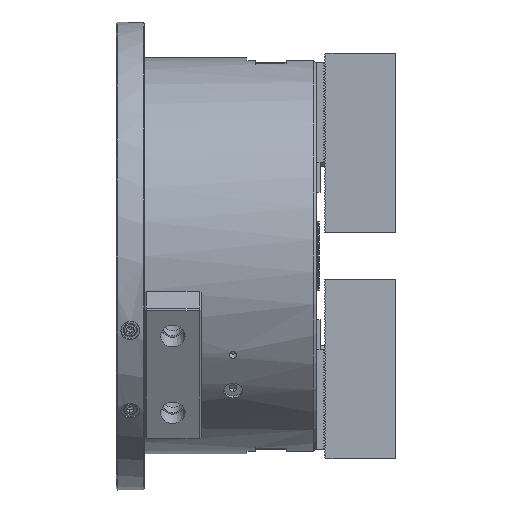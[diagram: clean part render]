
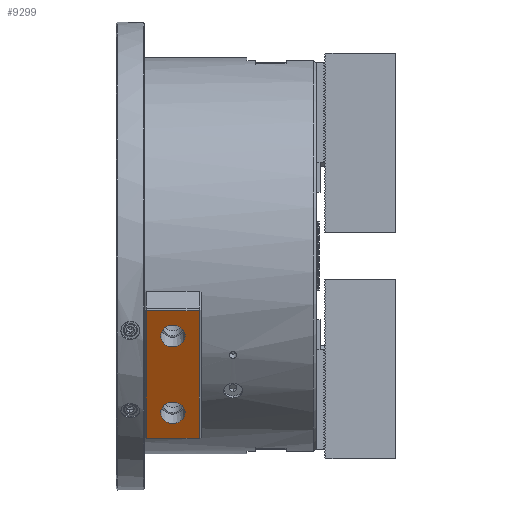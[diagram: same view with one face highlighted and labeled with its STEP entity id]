
A CAD part, front view. The second image highlights one B-rep face of the part: STEP entity #9299.
In plain terms, the highlighted planar face has unit normal (0, -0.866, -0.5).
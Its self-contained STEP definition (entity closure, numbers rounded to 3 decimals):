
#33 = ORIENTED_EDGE ( 'NONE', *, *, #34758, .T. ) ;
#1370 = VERTEX_POINT ( 'NONE', #50569 ) ;
#3205 = DIRECTION ( 'NONE',  ( 0., 0.5, -0.866 ) ) ;
#7455 = DIRECTION ( 'NONE',  ( 0., 0.866, 0.5 ) ) ;
#9299 = ADVANCED_FACE ( 'NONE', ( #11701, #69721, #12555 ), #52342, .T. ) ;
#9602 = EDGE_LOOP ( 'NONE', ( #22492 ) ) ;
#9884 = VECTOR ( 'NONE', #64900, 1000. ) ;
#11485 = VECTOR ( 'NONE', #60766, 1000. ) ;
#11701 = FACE_BOUND ( 'NONE', #9602, .T. ) ;
#12355 = AXIS2_PLACEMENT_3D ( 'NONE', #58385, #7455, #69651 ) ;
#12555 = FACE_BOUND ( 'NONE', #16937, .T. ) ;
#12608 = AXIS2_PLACEMENT_3D ( 'NONE', #46874, #49571, #62841 ) ;
#16937 = EDGE_LOOP ( 'NONE', ( #26444 ) ) ;
#19375 = VERTEX_POINT ( 'NONE', #48836 ) ;
#21330 = ORIENTED_EDGE ( 'NONE', *, *, #52631, .F. ) ;
#22492 = ORIENTED_EDGE ( 'NONE', *, *, #52951, .F. ) ;
#22755 = ORIENTED_EDGE ( 'NONE', *, *, #39277, .T. ) ;
#22876 = LINE ( 'NONE', #31705, #11485 ) ;
#23756 = EDGE_CURVE ( 'NONE', #65636, #1370, #22876, .T. ) ;
#23957 = CARTESIAN_POINT ( 'NONE',  ( -76., -93.672, -88.755 ) ) ;
#24606 = CIRCLE ( 'NONE', #64049, 6.529 ) ;
#26444 = ORIENTED_EDGE ( 'NONE', *, *, #36547, .T. ) ;
#31183 = CARTESIAN_POINT ( 'NONE',  ( -62., -128.186, -28.975 ) ) ;
#31705 = CARTESIAN_POINT ( 'NONE',  ( -61., -89.186, -96.525 ) ) ;
#32192 = CARTESIAN_POINT ( 'NONE',  ( -90., -89.186, -96.525 ) ) ;
#34668 = LINE ( 'NONE', #47257, #62862 ) ;
#34758 = EDGE_CURVE ( 'NONE', #19375, #65636, #34668, .T. ) ;
#36547 = EDGE_CURVE ( 'NONE', #47182, #47182, #41527, .T. ) ;
#39277 = EDGE_CURVE ( 'NONE', #1370, #56154, #40710, .T. ) ;
#40710 = LINE ( 'NONE', #59285, #9884 ) ;
#41527 = CIRCLE ( 'NONE', #12355, 6.529 ) ;
#41844 = DIRECTION ( 'NONE',  ( 0., 0.5, -0.866 ) ) ;
#41859 = VERTEX_POINT ( 'NONE', #23957 ) ;
#42248 = VECTOR ( 'NONE', #67005, 1000. ) ;
#46874 = CARTESIAN_POINT ( 'NONE',  ( -61., -88.686, -97.391 ) ) ;
#47182 = VERTEX_POINT ( 'NONE', #61704 ) ;
#47257 = CARTESIAN_POINT ( 'NONE',  ( -90., -88.686, -97.391 ) ) ;
#48836 = CARTESIAN_POINT ( 'NONE',  ( -90., -128.186, -28.975 ) ) ;
#49332 = CARTESIAN_POINT ( 'NONE',  ( -61., -128.186, -28.975 ) ) ;
#49571 = DIRECTION ( 'NONE',  ( 0., -0.866, -0.5 ) ) ;
#50569 = CARTESIAN_POINT ( 'NONE',  ( -62., -89.186, -96.525 ) ) ;
#51840 = ORIENTED_EDGE ( 'NONE', *, *, #23756, .T. ) ;
#52342 = PLANE ( 'NONE',  #12608 ) ;
#52631 = EDGE_CURVE ( 'NONE', #19375, #56154, #60803, .T. ) ;
#52951 = EDGE_CURVE ( 'NONE', #41859, #41859, #24606, .T. ) ;
#56154 = VERTEX_POINT ( 'NONE', #31183 ) ;
#58378 = DIRECTION ( 'NONE',  ( 0., -0.866, -0.5 ) ) ;
#58385 = CARTESIAN_POINT ( 'NONE',  ( -76., -120.436, -42.398 ) ) ;
#59285 = CARTESIAN_POINT ( 'NONE',  ( -62., -88.686, -97.391 ) ) ;
#60766 = DIRECTION ( 'NONE',  ( 1., 0., 0. ) ) ;
#60803 = LINE ( 'NONE', #49332, #42248 ) ;
#61704 = CARTESIAN_POINT ( 'NONE',  ( -76., -123.7, -36.745 ) ) ;
#62841 = DIRECTION ( 'NONE',  ( 1., 0., 0. ) ) ;
#62862 = VECTOR ( 'NONE', #3205, 1000. ) ;
#64049 = AXIS2_PLACEMENT_3D ( 'NONE', #70123, #58378, #41844 ) ;
#64900 = DIRECTION ( 'NONE',  ( 0., -0.5, 0.866 ) ) ;
#65636 = VERTEX_POINT ( 'NONE', #32192 ) ;
#65682 = EDGE_LOOP ( 'NONE', ( #22755, #21330, #33, #51840 ) ) ;
#67005 = DIRECTION ( 'NONE',  ( 1., 0., 0. ) ) ;
#69651 = DIRECTION ( 'NONE',  ( 0., -0.5, 0.866 ) ) ;
#69721 = FACE_OUTER_BOUND ( 'NONE', #65682, .T. ) ;
#70123 = CARTESIAN_POINT ( 'NONE',  ( -76., -96.936, -83.102 ) ) ;
